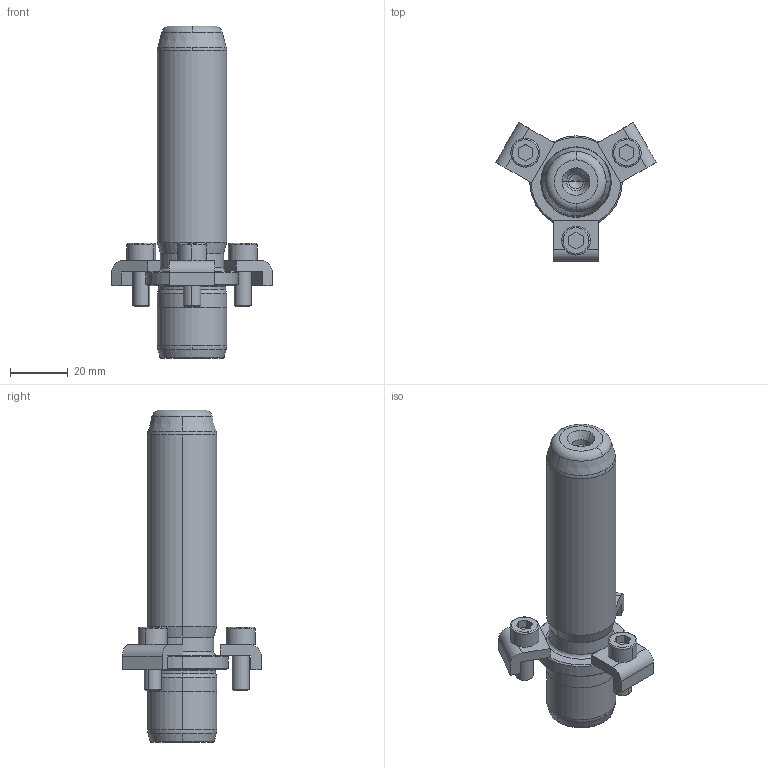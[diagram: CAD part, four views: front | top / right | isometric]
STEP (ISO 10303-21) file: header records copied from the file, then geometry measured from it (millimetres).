
FILE_DESCRIPTION((''),'2;1');
FILE_NAME('P21_024_090.stp','2008-12-23T09:25:56',(''),(''),'Mechanical Desktop 2009','Mechanical Desktop 2009',', , ');
FILE_SCHEMA(('CONFIG_CONTROL_DESIGN'));
Length unit declared in the file: millimetre
Products named in the file (2): Product; blmdl1
Assembly tree (1 placements, depth 2):
  Product
    blmdl1
Bounding box: 55.58 x 48.13 x 115 mm (x, y, z)
Volume: 56679 mm3; surface area: 15326.7 mm2
Topology: 7 solids, 7 shells, 163 faces, 417 edges, 269 vertices
Faces by surface type: plane 59, cylinder 44, cone 32, torus 14, bspline 14
Entity records: 5679 total; most frequent: CARTESIAN_POINT 1511, DIRECTION 914, ORIENTED_EDGE 826, EDGE_CURVE 413, AXIS2_PLACEMENT_3D 362, VERTEX_POINT 269, CIRCLE 211, VECTOR 190
